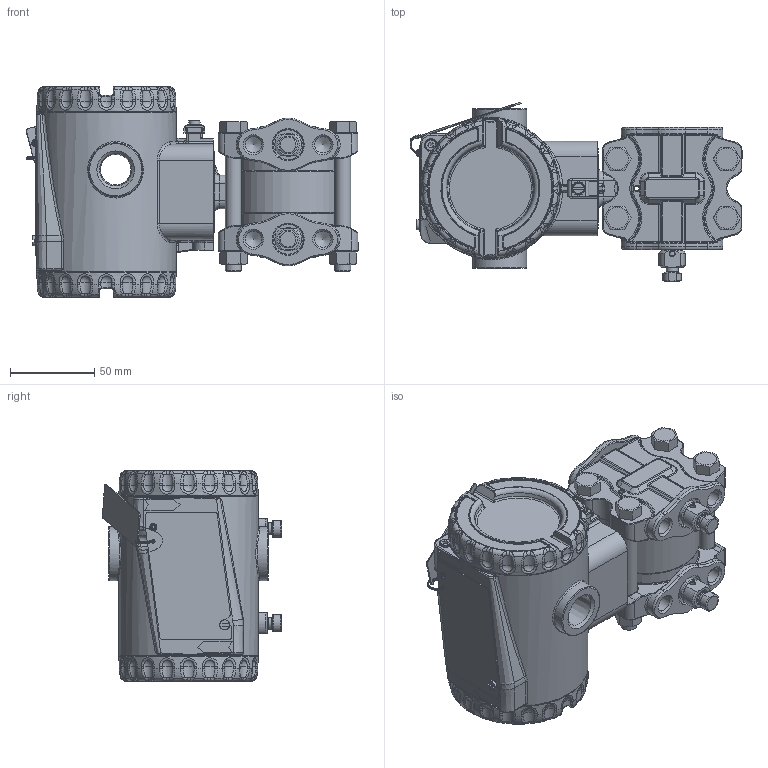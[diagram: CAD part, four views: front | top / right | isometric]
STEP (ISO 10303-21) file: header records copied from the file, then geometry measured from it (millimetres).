
FILE_DESCRIPTION(/* description */ (''),/* implementation_level */ '2;1');
FILE_NAME(/* name */ 'F:\Area\Desenvolvimento_2\Projects\Sensor\projetos\LD400-3d\dimensionais 3D clientes\LD400H4 1-4NPT purga oposta.stp',/* time_stamp */ '2023-02-02T11:45:50-03:00',/* author */ ('inventor02'),/* organization */ (''),/* preprocessor_version */ 'ST-DEVELOPER v17',/* originating_system */ 'Autodesk Inventor 2019',/* authorisation */ '');
FILE_SCHEMA (('CONFIG_CONTROL_DESIGN'));
Products named in the file (29): LD400H4 1-4NPT purga oposta; Carcaça 400 com tampas e plaqueta sem letras; 101-D-0845-05 carcaça LD400 sem letras; 101-B-3614-03-tampa 400 sem letras; Tampa visor 400 montada sem letras; 101-B-3612-05 tampa visor 400 sem letras; 101-A-6107; oring 2034; 00034775-0; WHW_250; DIN 915 - M6 x 10; Chapa aterramento externo; 201-A-1771-02 inserto terra recartilhado; AS 1969 - ST4,2; ISO 1207 - M4 x 8; ANSI B18.3.1M - M4x0,7 x 8; Subconjunto plaqueta 400; plaqueta 400 em branco; Parafuso da Plaqueta; Rebite da Plaqueta; 096-A-0169-03; 101-A-0502-01; diferencial FX4 purga oposta; involucro fx4 apos a usinagem final; 075-B-0046-purgador; flange diferencial std sem purga; Paraf. 3-8 x 16 UNC; Porca 3-8 x 16 UNC; Sangria
Assembly tree (38 placements, depth 4):
  LD400H4 1-4NPT purga oposta
    Carcaça 400 com tampas e plaqueta sem letras
      101-D-0845-05 carcaça LD400 sem letras
      101-B-3614-03-tampa 400 sem letras
      Tampa visor 400 montada sem letras
        101-B-3612-05 tampa visor 400 sem letras
        101-A-6107
        oring 2034
        00034775-0
        WHW_250
      DIN 915 - M6 x 10
      Chapa aterramento externo
      201-A-1771-02 inserto terra recartilhado
      AS 1969 - ST4,2
      ISO 1207 - M4 x 8
      ANSI B18.3.1M - M4x0,7 x 8  x2
      Subconjunto plaqueta 400
        plaqueta 400 em branco
        Parafuso da Plaqueta
        Rebite da Plaqueta
        096-A-0169-03
        101-A-0502-01
    diferencial FX4 purga oposta
      involucro fx4 apos a usinagem final
      flange diferencial std sem purga  x2
      075-B-0046-purgador  x2
      Paraf. 3-8 x 16 UNC  x4
      Porca 3-8 x 16 UNC  x4
      Sangria  x2
Bounding box: 197.25 x 106.39 x 125 mm (x, y, z)
Volume: 616467.4 mm3; surface area: 236304.9 mm2
Topology: 34 solids, 34 shells, 2625 faces, 6367 edges, 3799 vertices
Faces by surface type: plane 651, cylinder 639, bspline 611, torus 440, cone 213, sphere 71
Full cylindrical faces by diameter (mm): 2 x2, 2.1 x1, 2.2 x1, 2.459 x3, 2.7 x1, 3 x7, 3.242 x3, 3.571 x1, 4 x4, 4.3 x2, 4.4 x1, 4.917 x1, 5.5 x6, 6 x2, 6.1 x2, 6.2 x1, 6.8 x2, 7 x4, 7.6 x2, 7.798 x4, 8 x2, 9.525 x4, 9.728 x8, 10.5 x8, 10.719 x4, 13.8 x2, 14 x1, 18.3 x2, 18.5 x4, 32 x2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
Entity records: 80541 total; most frequent: CARTESIAN_POINT 31535, ORIENTED_EDGE 10210, DIRECTION 9943, EDGE_CURVE 5105, AXIS2_PLACEMENT_3D 4200, VERTEX_POINT 3067, CIRCLE 2405, EDGE_LOOP 2210
